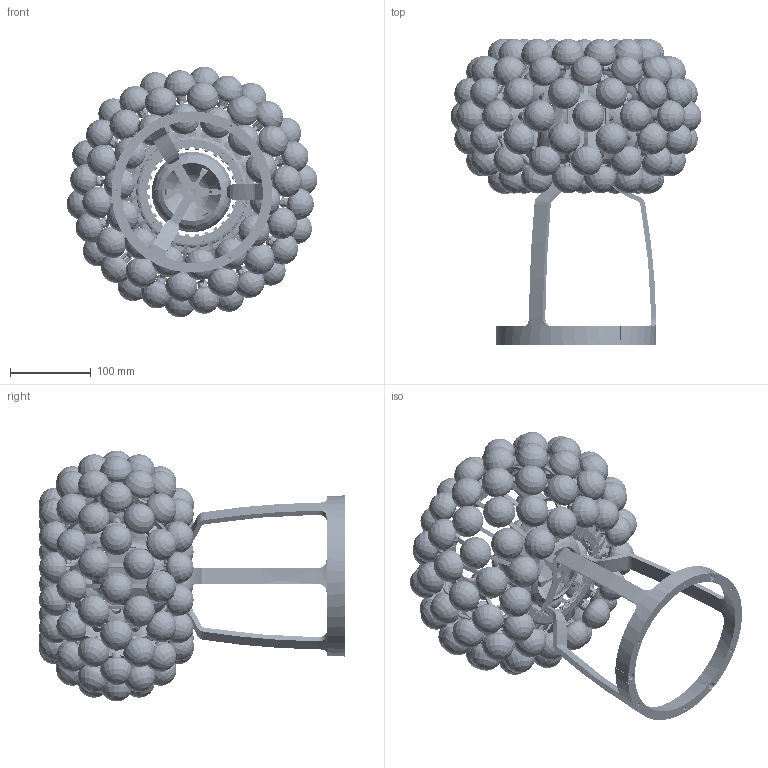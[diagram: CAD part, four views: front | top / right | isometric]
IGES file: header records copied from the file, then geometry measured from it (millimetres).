
Start section: SolidWorks IGES file using analytic representation for surfaces
Global section: file name: X:\stage\CABOCHE\CABOCHE PICCOLA TAVOLO.IGS; native system: SolidWorks 2006 by SolidWorks Corporation; preprocessor: SolidWorks 2006 by SolidWorks Corporation; author: stagetec; date: 061002.092212; units: millimetre
Bounding box: 311.3 x 379.99 x 311.3 mm (x, y, z)
Volume: 3169640.9 mm3; surface area: 770493.8 mm2
Topology: 132 solids, 132 shells, 17521 faces, 45085 edges, 27175 vertices
Faces by surface type: revolution 11080, plane 4268, bspline 2173
